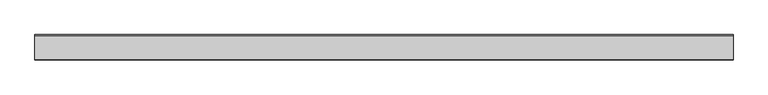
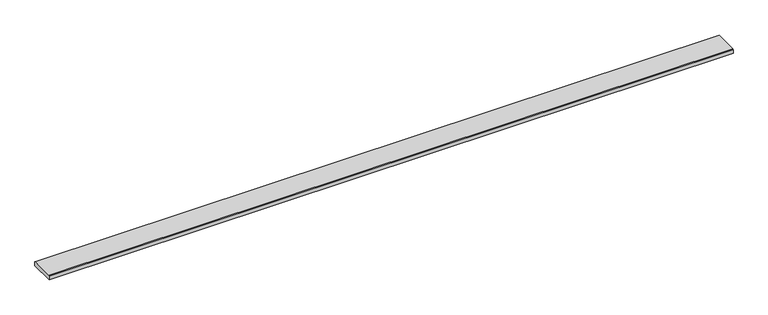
"""IFC4 building model written with IfcOpenShell, lengths in millimetres: proxy geometry."""

from ifc_helpers import new_model, si_unit, frame, origin, place, context, project, spatial, polyline, outline, extrude, source, transform, mapped, element, save


def generic_models_31ba2d0d(model_context):
    return source(origin(), model_context, "Body", "SweptSolid", [
        extrude(outline(polyline([(0.0, 13.629936), (2.245064, 15.875), (86.654936, 15.875), (88.9, 13.629936), (88.9, 0.0), (0.0, 0.0), (0.0, 13.629936)])), frame((0.0, 0.0, 0.0), z_axis=(1.0, 0.0, 0.0), x_axis=(0.0, 1.0, 0.0)), (0.0, 0.0, 1.0), 2438.4),
    ])


if __name__ == "__main__":
    model = new_model("IFC4")
    model_context = context("Model", 3, world=origin())
    ifc_project = project(units=[si_unit("LENGTHUNIT", "METRE", prefix="MILLI")], contexts=[model_context])
    site = spatial("IfcSite", under=ifc_project)
    building = spatial("IfcBuilding", under=site)
    placement = place(None, origin())
    generic_models_shape = generic_models_31ba2d0d(model_context)
    element("IfcBuildingElementProxy", 1, Name="440 Series Reversible Trim (Fiber) : 440 Series Reversible Trim (Fiber) - 3.5\"", ObjectType="440 Series Reversible Trim (Fiber) : 440 Series Reversible Trim (Fiber) - 3.5\"", at=placement, inside=building, context=model_context, shape_type="MappedRepresentation", body=[
        mapped(generic_models_shape, transform((0.0, 0.0, 0.0), x_axis=(1.0, 0.0, 0.0), y_axis=(0.0, 1.0, 0.0), z_axis=(0.0, 0.0, 1.0))),
    ])
    save(model, "model.ifc")
